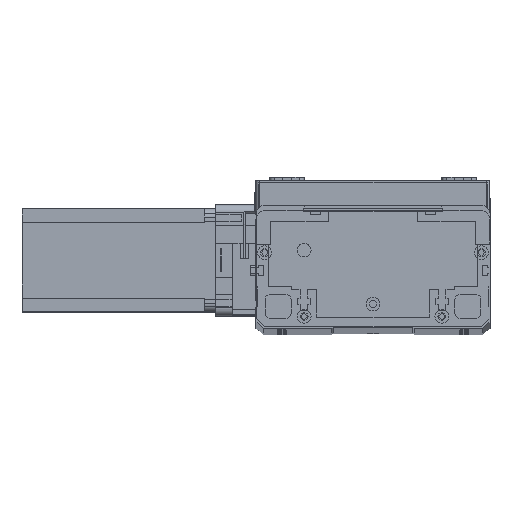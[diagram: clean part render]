
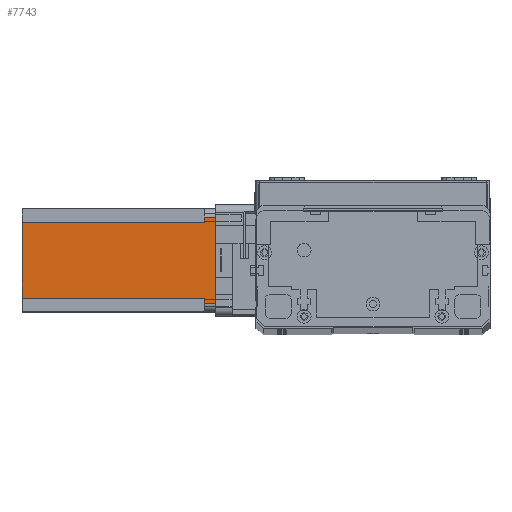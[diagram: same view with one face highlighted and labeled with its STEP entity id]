
A CAD part, top view. The second image highlights one B-rep face of the part: STEP entity #7743.
In plain terms, the highlighted planar face has unit normal (0, 0, 1) as drawn and (0, -1, 0) by its records, which use the part's own axes.
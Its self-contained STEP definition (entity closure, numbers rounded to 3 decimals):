
#479 = LINE ( 'NONE', #26559, #1144 ) ;
#928 = EDGE_CURVE ( 'NONE', #21871, #18029, #12072, .T. ) ;
#1144 = VECTOR ( 'NONE', #14331, 1000. ) ;
#3066 = DIRECTION ( 'NONE',  ( 0., 0., 1. ) ) ;
#3256 = DIRECTION ( 'NONE',  ( 0., 0., -1. ) ) ;
#3334 = DIRECTION ( 'NONE',  ( 0., -1., 0. ) ) ;
#3336 = PLANE ( 'NONE',  #10463 ) ;
#3451 = CARTESIAN_POINT ( 'NONE',  ( 0., 0., -112.5 ) ) ;
#3642 = VERTEX_POINT ( 'NONE', #10926 ) ;
#3918 = CARTESIAN_POINT ( 'NONE',  ( 5., 0., 0. ) ) ;
#4088 = EDGE_LOOP ( 'NONE', ( #20443, #8799, #26733, #7990, #26135, #4143, #26700, #23159 ) ) ;
#4097 = LINE ( 'NONE', #19418, #20165 ) ;
#4143 = ORIENTED_EDGE ( 'NONE', *, *, #23284, .F. ) ;
#4165 = VECTOR ( 'NONE', #3066, 1000. ) ;
#4366 = DIRECTION ( 'NONE',  ( -1., 0., 0. ) ) ;
#5665 = CARTESIAN_POINT ( 'NONE',  ( 5., 0., -6.5 ) ) ;
#6139 = VERTEX_POINT ( 'NONE', #7867 ) ;
#7541 = VERTEX_POINT ( 'NONE', #5665 ) ;
#7743 = ADVANCED_FACE ( 'NONE', ( #10238 ), #3336, .T. ) ;
#7867 = CARTESIAN_POINT ( 'NONE',  ( 8., 0., -6.5 ) ) ;
#7990 = ORIENTED_EDGE ( 'NONE', *, *, #11785, .T. ) ;
#8799 = ORIENTED_EDGE ( 'NONE', *, *, #928, .T. ) ;
#9337 = LINE ( 'NONE', #17285, #25126 ) ;
#9364 = CARTESIAN_POINT ( 'NONE',  ( 0., 0., -112.5 ) ) ;
#10238 = FACE_OUTER_BOUND ( 'NONE', #4088, .T. ) ;
#10463 = AXIS2_PLACEMENT_3D ( 'NONE', #3451, #3334, #3256 ) ;
#10926 = CARTESIAN_POINT ( 'NONE',  ( 52., 0., -112.5 ) ) ;
#11512 = CARTESIAN_POINT ( 'NONE',  ( 55., 0., -112.5 ) ) ;
#11785 = EDGE_CURVE ( 'NONE', #26027, #7541, #479, .T. ) ;
#12072 = LINE ( 'NONE', #11512, #22445 ) ;
#12140 = VECTOR ( 'NONE', #24924, 1000. ) ;
#12533 = DIRECTION ( 'NONE',  ( 0., 0., 1. ) ) ;
#14331 = DIRECTION ( 'NONE',  ( 0., 0., -1. ) ) ;
#14999 = CARTESIAN_POINT ( 'NONE',  ( 8., 0., -112.5 ) ) ;
#15067 = CARTESIAN_POINT ( 'NONE',  ( 55., 0., -6.5 ) ) ;
#15350 = DIRECTION ( 'NONE',  ( 1., 0., 0. ) ) ;
#15568 = LINE ( 'NONE', #9364, #25769 ) ;
#15941 = CARTESIAN_POINT ( 'NONE',  ( 52., 0., -6.5 ) ) ;
#16535 = EDGE_CURVE ( 'NONE', #6139, #7541, #20246, .T. ) ;
#16961 = CARTESIAN_POINT ( 'NONE',  ( 8., 0., -6.5 ) ) ;
#17246 = VERTEX_POINT ( 'NONE', #15941 ) ;
#17285 = CARTESIAN_POINT ( 'NONE',  ( 0., 0., 0. ) ) ;
#17716 = EDGE_CURVE ( 'NONE', #17246, #21871, #4097, .T. ) ;
#17729 = LINE ( 'NONE', #22903, #12140 ) ;
#18029 = VERTEX_POINT ( 'NONE', #26476 ) ;
#19343 = DIRECTION ( 'NONE',  ( 1., 0., 0. ) ) ;
#19418 = CARTESIAN_POINT ( 'NONE',  ( 52., 0., -6.5 ) ) ;
#19496 = EDGE_CURVE ( 'NONE', #19844, #3642, #15568, .T. ) ;
#19809 = CARTESIAN_POINT ( 'NONE',  ( 8., 0., -112.5 ) ) ;
#19844 = VERTEX_POINT ( 'NONE', #14999 ) ;
#19896 = EDGE_CURVE ( 'NONE', #26027, #18029, #9337, .T. ) ;
#20165 = VECTOR ( 'NONE', #15350, 1000. ) ;
#20246 = LINE ( 'NONE', #16961, #24979 ) ;
#20443 = ORIENTED_EDGE ( 'NONE', *, *, #17716, .T. ) ;
#21783 = EDGE_CURVE ( 'NONE', #17246, #3642, #17729, .T. ) ;
#21871 = VERTEX_POINT ( 'NONE', #15067 ) ;
#22445 = VECTOR ( 'NONE', #12533, 1000. ) ;
#22903 = CARTESIAN_POINT ( 'NONE',  ( 52., 0., -112.5 ) ) ;
#23159 = ORIENTED_EDGE ( 'NONE', *, *, #21783, .F. ) ;
#23284 = EDGE_CURVE ( 'NONE', #19844, #6139, #26209, .T. ) ;
#23805 = DIRECTION ( 'NONE',  ( 1., 0., 0. ) ) ;
#24924 = DIRECTION ( 'NONE',  ( 0., 0., -1. ) ) ;
#24979 = VECTOR ( 'NONE', #4366, 1000. ) ;
#25126 = VECTOR ( 'NONE', #19343, 1000. ) ;
#25769 = VECTOR ( 'NONE', #23805, 1000. ) ;
#26027 = VERTEX_POINT ( 'NONE', #3918 ) ;
#26135 = ORIENTED_EDGE ( 'NONE', *, *, #16535, .F. ) ;
#26209 = LINE ( 'NONE', #19809, #4165 ) ;
#26476 = CARTESIAN_POINT ( 'NONE',  ( 55., 0., 0. ) ) ;
#26559 = CARTESIAN_POINT ( 'NONE',  ( 5., 0., -112.5 ) ) ;
#26700 = ORIENTED_EDGE ( 'NONE', *, *, #19496, .T. ) ;
#26733 = ORIENTED_EDGE ( 'NONE', *, *, #19896, .F. ) ;
